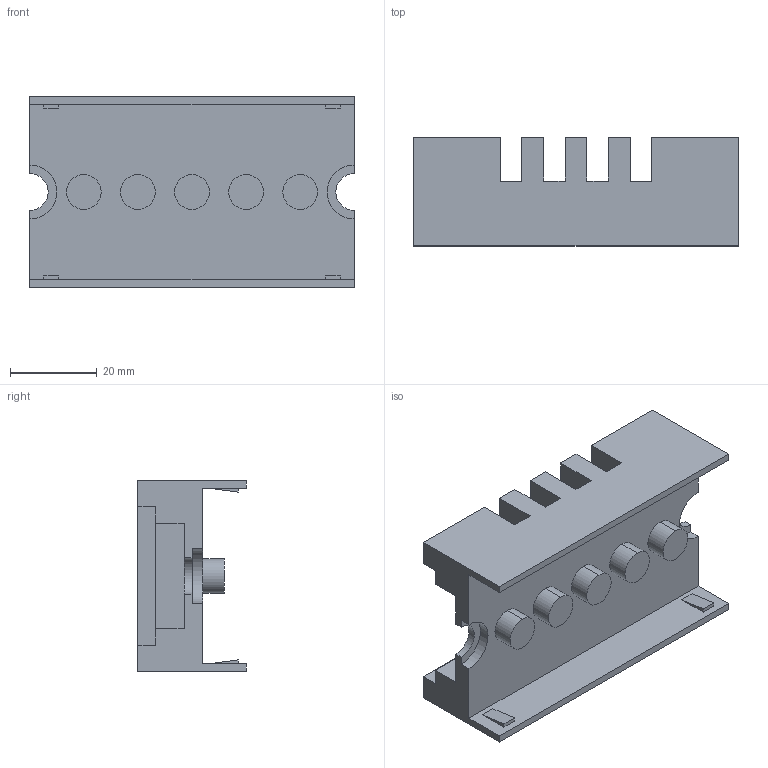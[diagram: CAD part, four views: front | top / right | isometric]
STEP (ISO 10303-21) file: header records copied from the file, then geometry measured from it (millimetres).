
FILE_DESCRIPTION (( 'STEP AP214' ), '1' );
FILE_NAME ('YIS40-05-04-075 Èçîëÿòîð øèíîäåðæàòåëÿ 75-5-4.STEP', '2025-08-21T09:18:06', ( '' ), ( '' ), 'SwSTEP 2.0', 'SolidWorks 2023', '' );
FILE_SCHEMA (( 'AUTOMOTIVE_DESIGN' ));
Length unit declared in the file: millimetre
Products named in the file (1): YIS40-05-04-075 Изолятор шинодержателя 75-5-4
Bounding box: 75 x 25 x 44 mm (x, y, z)
Volume: 34896.8 mm3; surface area: 17951.1 mm2
Topology: 1 solids, 1 shells, 124 faces, 330 edges, 220 vertices
Faces by surface type: plane 96, cylinder 14, bspline 14
Entity records: 3949 total; most frequent: CARTESIAN_POINT 897, ORIENTED_EDGE 660, DIRECTION 552, EDGE_CURVE 330, LINE 274, VECTOR 274, VERTEX_POINT 220, AXIS2_PLACEMENT_3D 139
